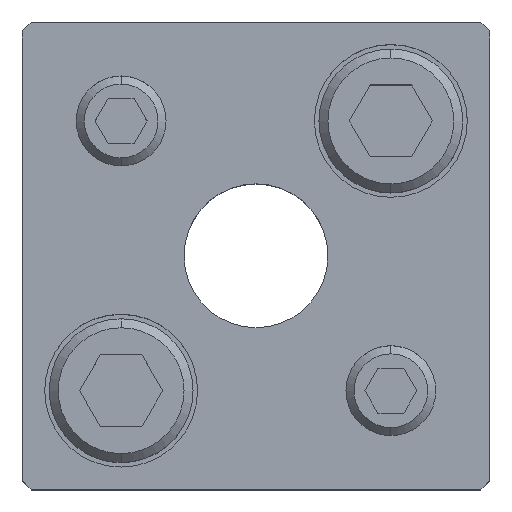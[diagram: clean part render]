
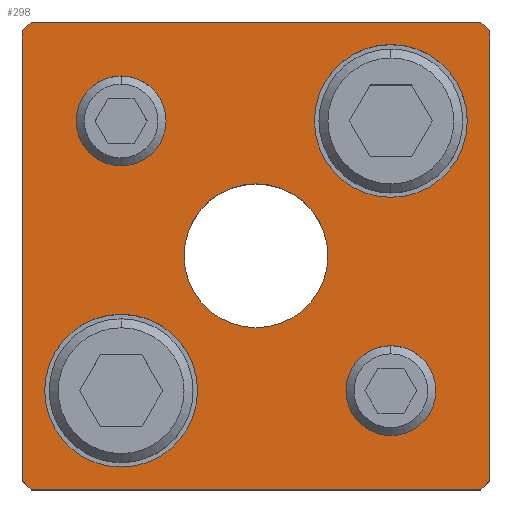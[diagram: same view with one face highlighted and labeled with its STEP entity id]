
A CAD part, top view. The second image highlights one B-rep face of the part: STEP entity #298.
In plain terms, the highlighted planar face has unit normal (0, 0, 1).
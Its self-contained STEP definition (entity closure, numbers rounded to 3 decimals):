
#153=PLANE('',#2436);
#220=FACE_BOUND('',#611,.T.);
#221=FACE_BOUND('',#612,.T.);
#222=FACE_BOUND('',#613,.T.);
#223=FACE_BOUND('',#614,.T.);
#224=FACE_BOUND('',#615,.T.);
#225=FACE_BOUND('',#616,.T.);
#298=ADVANCED_FACE('',(#220,#221,#222,#223,#224,#225),#153,.T.);
#611=EDGE_LOOP('',(#1281,#1282,#1283,#1284,#1285,#1286,#1287,#1288));
#612=EDGE_LOOP('',(#1289,#1290));
#613=EDGE_LOOP('',(#1291,#1292));
#614=EDGE_LOOP('',(#1293,#1294));
#615=EDGE_LOOP('',(#1295,#1296));
#616=EDGE_LOOP('',(#1297,#1298));
#759=LINE('',#3542,#941);
#760=LINE('',#3545,#942);
#761=LINE('',#3547,#943);
#762=LINE('',#3549,#944);
#763=LINE('',#3551,#945);
#764=LINE('',#3553,#946);
#765=LINE('',#3555,#947);
#766=LINE('',#3557,#948);
#941=VECTOR('',#2839,1.);
#942=VECTOR('',#2840,1.);
#943=VECTOR('',#2841,1.);
#944=VECTOR('',#2842,1.);
#945=VECTOR('',#2843,1.);
#946=VECTOR('',#2844,1.);
#947=VECTOR('',#2845,1.);
#948=VECTOR('',#2846,1.);
#1281=ORIENTED_EDGE('',*,*,#2001,.T.);
#1282=ORIENTED_EDGE('',*,*,#2002,.T.);
#1283=ORIENTED_EDGE('',*,*,#2003,.T.);
#1284=ORIENTED_EDGE('',*,*,#2004,.T.);
#1285=ORIENTED_EDGE('',*,*,#2005,.T.);
#1286=ORIENTED_EDGE('',*,*,#2006,.T.);
#1287=ORIENTED_EDGE('',*,*,#2007,.T.);
#1288=ORIENTED_EDGE('',*,*,#2008,.T.);
#1289=ORIENTED_EDGE('',*,*,#2009,.F.);
#1290=ORIENTED_EDGE('',*,*,#2010,.F.);
#1291=ORIENTED_EDGE('',*,*,#2011,.F.);
#1292=ORIENTED_EDGE('',*,*,#2012,.F.);
#1293=ORIENTED_EDGE('',*,*,#1987,.F.);
#1294=ORIENTED_EDGE('',*,*,#1983,.F.);
#1295=ORIENTED_EDGE('',*,*,#1981,.F.);
#1296=ORIENTED_EDGE('',*,*,#1977,.F.);
#1297=ORIENTED_EDGE('',*,*,#2013,.T.);
#1298=ORIENTED_EDGE('',*,*,#2014,.T.);
#1751=VERTEX_POINT('',#3493);
#1752=VERTEX_POINT('',#3494);
#1755=VERTEX_POINT('',#3506);
#1756=VERTEX_POINT('',#3507);
#1767=VERTEX_POINT('',#3543);
#1768=VERTEX_POINT('',#3544);
#1769=VERTEX_POINT('',#3546);
#1770=VERTEX_POINT('',#3548);
#1771=VERTEX_POINT('',#3550);
#1772=VERTEX_POINT('',#3552);
#1773=VERTEX_POINT('',#3554);
#1774=VERTEX_POINT('',#3556);
#1775=VERTEX_POINT('',#3559);
#1776=VERTEX_POINT('',#3560);
#1777=VERTEX_POINT('',#3563);
#1778=VERTEX_POINT('',#3564);
#1779=VERTEX_POINT('',#3567);
#1780=VERTEX_POINT('',#3568);
#1977=EDGE_CURVE('',#1751,#1752,#2247,.T.);
#1981=EDGE_CURVE('',#1752,#1751,#2249,.T.);
#1983=EDGE_CURVE('',#1755,#1756,#2251,.T.);
#1987=EDGE_CURVE('',#1756,#1755,#2253,.T.);
#2001=EDGE_CURVE('',#1767,#1768,#759,.T.);
#2002=EDGE_CURVE('',#1768,#1769,#760,.T.);
#2003=EDGE_CURVE('',#1769,#1770,#761,.T.);
#2004=EDGE_CURVE('',#1770,#1771,#762,.T.);
#2005=EDGE_CURVE('',#1771,#1772,#763,.T.);
#2006=EDGE_CURVE('',#1772,#1773,#764,.T.);
#2007=EDGE_CURVE('',#1773,#1774,#765,.T.);
#2008=EDGE_CURVE('',#1774,#1767,#766,.T.);
#2009=EDGE_CURVE('',#1775,#1776,#2263,.T.);
#2010=EDGE_CURVE('',#1776,#1775,#2264,.T.);
#2011=EDGE_CURVE('',#1777,#1778,#2265,.T.);
#2012=EDGE_CURVE('',#1778,#1777,#2266,.T.);
#2013=EDGE_CURVE('',#1779,#1780,#2267,.T.);
#2014=EDGE_CURVE('',#1780,#1779,#2268,.T.);
#2247=CIRCLE('',#2404,5.);
#2249=CIRCLE('',#2407,5.);
#2251=CIRCLE('',#2411,5.);
#2253=CIRCLE('',#2414,5.);
#2263=CIRCLE('',#2430,8.5);
#2264=CIRCLE('',#2431,8.5);
#2265=CIRCLE('',#2432,8.5);
#2266=CIRCLE('',#2433,8.5);
#2267=CIRCLE('',#2434,8.);
#2268=CIRCLE('',#2435,8.);
#2404=AXIS2_PLACEMENT_3D('',#3492,#2779,#2780);
#2407=AXIS2_PLACEMENT_3D('',#3501,#2787,#2788);
#2411=AXIS2_PLACEMENT_3D('',#3505,#2795,#2796);
#2414=AXIS2_PLACEMENT_3D('',#3514,#2803,#2804);
#2430=AXIS2_PLACEMENT_3D('',#3558,#2847,#2848);
#2431=AXIS2_PLACEMENT_3D('',#3561,#2849,#2850);
#2432=AXIS2_PLACEMENT_3D('',#3562,#2851,#2852);
#2433=AXIS2_PLACEMENT_3D('',#3565,#2853,#2854);
#2434=AXIS2_PLACEMENT_3D('',#3566,#2855,#2856);
#2435=AXIS2_PLACEMENT_3D('',#3569,#2857,#2858);
#2436=AXIS2_PLACEMENT_3D('',#3570,#2859,#2860);
#2779=DIRECTION('',(0.,0.,1.));
#2780=DIRECTION('',(-1.,0.,0.));
#2787=DIRECTION('',(0.,0.,1.));
#2788=DIRECTION('',(1.,0.,0.));
#2795=DIRECTION('',(0.,0.,1.));
#2796=DIRECTION('',(-1.,0.,0.));
#2803=DIRECTION('',(0.,0.,1.));
#2804=DIRECTION('',(1.,0.,0.));
#2839=DIRECTION('',(0.707,0.707,0.));
#2840=DIRECTION('',(0.,1.,0.));
#2841=DIRECTION('',(-0.707,0.707,0.));
#2842=DIRECTION('',(-1.,0.,0.));
#2843=DIRECTION('',(-0.707,-0.707,0.));
#2844=DIRECTION('',(0.,-1.,0.));
#2845=DIRECTION('',(0.707,-0.707,0.));
#2846=DIRECTION('',(1.,0.,0.));
#2847=DIRECTION('',(0.,0.,1.));
#2848=DIRECTION('',(1.,0.,0.));
#2849=DIRECTION('',(0.,0.,1.));
#2850=DIRECTION('',(-1.,0.,0.));
#2851=DIRECTION('',(0.,0.,1.));
#2852=DIRECTION('',(1.,0.,0.));
#2853=DIRECTION('',(0.,0.,1.));
#2854=DIRECTION('',(-1.,0.,0.));
#2855=DIRECTION('',(0.,0.,-1.));
#2856=DIRECTION('',(-1.,0.,0.));
#2857=DIRECTION('',(0.,0.,-1.));
#2858=DIRECTION('',(1.,0.,0.));
#2859=DIRECTION('',(0.,0.,1.));
#2860=DIRECTION('',(-1.,0.,0.));
#3492=CARTESIAN_POINT('',(15.,-15.,30.));
#3493=CARTESIAN_POINT('',(15.,-20.,30.));
#3494=CARTESIAN_POINT('',(15.,-10.,30.));
#3501=CARTESIAN_POINT('',(15.,-15.,30.));
#3505=CARTESIAN_POINT('',(-15.,15.,30.));
#3506=CARTESIAN_POINT('',(-15.,10.,30.));
#3507=CARTESIAN_POINT('',(-15.,20.,30.));
#3514=CARTESIAN_POINT('',(-15.,15.,30.));
#3542=CARTESIAN_POINT('',(25.,-26.,30.));
#3543=CARTESIAN_POINT('',(25.,-26.,30.));
#3544=CARTESIAN_POINT('',(26.,-25.,30.));
#3545=CARTESIAN_POINT('',(26.,25.,30.));
#3546=CARTESIAN_POINT('',(26.,25.,30.));
#3547=CARTESIAN_POINT('',(26.,25.,30.));
#3548=CARTESIAN_POINT('',(25.,26.,30.));
#3549=CARTESIAN_POINT('',(-25.,26.,30.));
#3550=CARTESIAN_POINT('',(-25.,26.,30.));
#3551=CARTESIAN_POINT('',(-25.,26.,30.));
#3552=CARTESIAN_POINT('',(-26.,25.,30.));
#3553=CARTESIAN_POINT('',(-26.,25.,30.));
#3554=CARTESIAN_POINT('',(-26.,-25.,30.));
#3555=CARTESIAN_POINT('',(-26.,-25.,30.));
#3556=CARTESIAN_POINT('',(-25.,-26.,30.));
#3557=CARTESIAN_POINT('',(-25.,-26.,30.));
#3558=CARTESIAN_POINT('',(15.,15.,30.));
#3559=CARTESIAN_POINT('',(15.,23.5,30.));
#3560=CARTESIAN_POINT('',(15.,6.5,30.));
#3561=CARTESIAN_POINT('',(15.,15.,30.));
#3562=CARTESIAN_POINT('',(-15.,-15.,30.));
#3563=CARTESIAN_POINT('',(-15.,-6.5,30.));
#3564=CARTESIAN_POINT('',(-15.,-23.5,30.));
#3565=CARTESIAN_POINT('',(-15.,-15.,30.));
#3566=CARTESIAN_POINT('',(0.,0.,30.));
#3567=CARTESIAN_POINT('',(0.,8.,30.));
#3568=CARTESIAN_POINT('',(0.,-8.,30.));
#3569=CARTESIAN_POINT('',(0.,0.,30.));
#3570=CARTESIAN_POINT('',(25.,-26.,30.));
